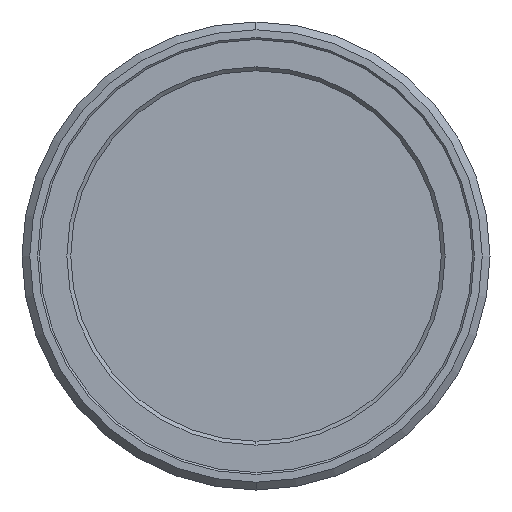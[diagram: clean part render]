
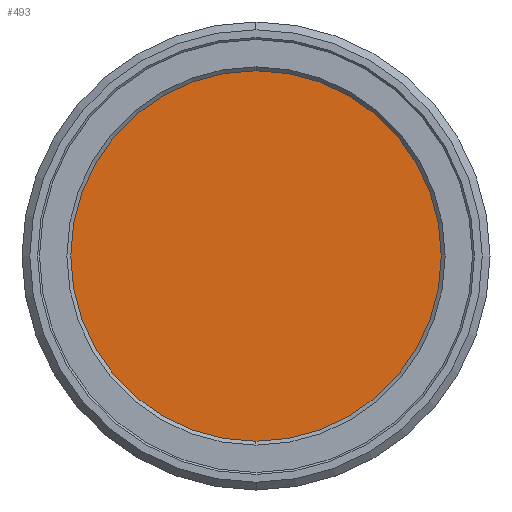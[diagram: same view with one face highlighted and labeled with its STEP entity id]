
A CAD part, left-side view. The second image highlights one B-rep face of the part: STEP entity #493.
In plain terms, the highlighted planar face has unit normal (-1, 0, 0).
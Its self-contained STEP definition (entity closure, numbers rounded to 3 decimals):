
#95 = VERTEX_POINT ( 'NONE', #7849 ) ;
#180 = VERTEX_POINT ( 'NONE', #7930 ) ;
#493 = ADVANCED_FACE ( 'NONE', ( #2072 ), #8246, .F. ) ;
#1546 = DIRECTION ( 'NONE',  ( 0., 0., 1. ) ) ;
#1547 = DIRECTION ( 'NONE',  ( -1., 0., 0. ) ) ;
#1548 = CARTESIAN_POINT ( 'NONE',  ( 6.5, 0., 0. ) ) ;
#2072 = FACE_OUTER_BOUND ( 'NONE', #3247, .T. ) ;
#3247 = EDGE_LOOP ( 'NONE', ( #6516, #6531 ) ) ;
#3487 = CARTESIAN_POINT ( 'NONE',  ( 6.5, 0., 0. ) ) ;
#3488 = DIRECTION ( 'NONE',  ( -1., 0., 0. ) ) ;
#3489 = DIRECTION ( 'NONE',  ( 0., 0., 1. ) ) ;
#4576 = AXIS2_PLACEMENT_3D ( 'NONE', #8239, #8251, #8252 ) ;
#4827 = AXIS2_PLACEMENT_3D ( 'NONE', #1548, #1547, #1546 ) ;
#4890 = AXIS2_PLACEMENT_3D ( 'NONE', #3487, #3488, #3489 ) ;
#5054 = CIRCLE ( 'NONE', #4827, 47.5 ) ;
#5295 = CIRCLE ( 'NONE', #4890, 47.5 ) ;
#6516 = ORIENTED_EDGE ( 'NONE', *, *, #6962, .T. ) ;
#6531 = ORIENTED_EDGE ( 'NONE', *, *, #7069, .T. ) ;
#6962 = EDGE_CURVE ( 'NONE', #95, #180, #5054, .T. ) ;
#7069 = EDGE_CURVE ( 'NONE', #180, #95, #5295, .T. ) ;
#7849 = CARTESIAN_POINT ( 'NONE',  ( 6.5, 0., 47.5 ) ) ;
#7930 = CARTESIAN_POINT ( 'NONE',  ( 6.5, 0., -47.5 ) ) ;
#8239 = CARTESIAN_POINT ( 'NONE',  ( 6.5, 47.5, 0. ) ) ;
#8246 = PLANE ( 'NONE',  #4576 ) ;
#8251 = DIRECTION ( 'NONE',  ( 1., 0., 0. ) ) ;
#8252 = DIRECTION ( 'NONE',  ( 0., 0., -1. ) ) ;
